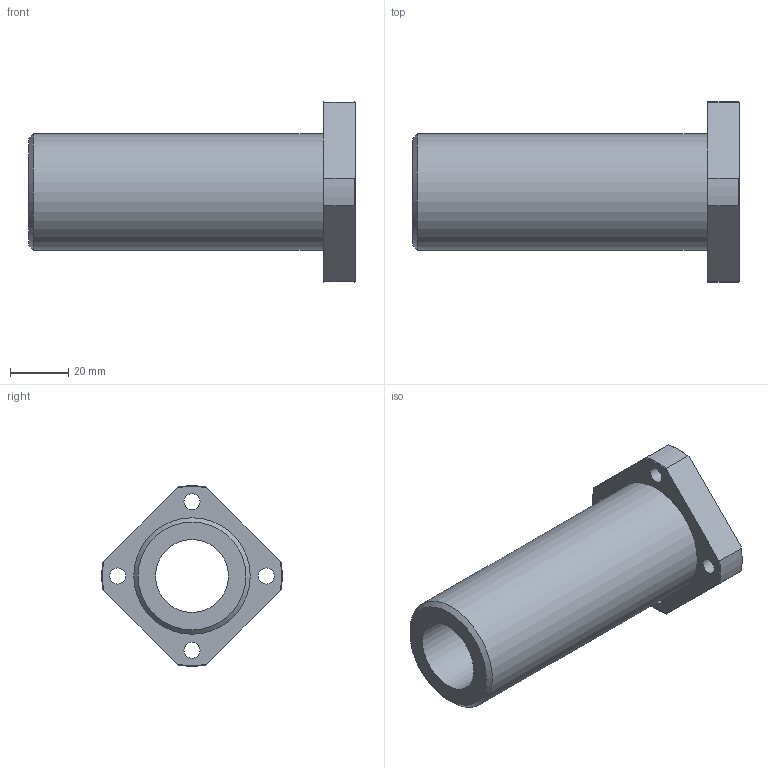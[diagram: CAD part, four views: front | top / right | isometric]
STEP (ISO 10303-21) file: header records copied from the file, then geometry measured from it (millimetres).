
FILE_DESCRIPTION(('STEP AP203'),'1');
FILE_NAME('//192.168.1.1/share/s-4 技術開発/s-4-4_CAD/s-4-4-3_見直し済み/PBC LINEAR修正済み/DFPJ/DFPJ_TOP/DFPJ/DFPJ25.step','2022-03-24T05:04:28',(' '),(' '),'Spatial InterOp 3D',' ',' ');
FILE_SCHEMA(('CONFIG_CONTROL_DESIGN'));
Length unit declared in the file: millimetre
Products named in the file (1): 1
Bounding box: 112 x 61.92 x 61.92 mm (x, y, z)
Volume: 96564.9 mm3; surface area: 28046 mm2
Topology: 1 solids, 1 shells, 34 faces, 85 edges, 58 vertices
Faces by surface type: cylinder 14, plane 11, cone 9
Full cylindrical faces by diameter (mm): 5.5 x4, 9 x4, 25 x1, 40 x1
Entity records: 1018 total; most frequent: CARTESIAN_POINT 205, DIRECTION 160, ORIENTED_EDGE 138, AXIS2_PLACEMENT_3D 72, EDGE_CURVE 69, EDGE_LOOP 60, VERTEX_POINT 53, FACE_OUTER_BOUND 44
